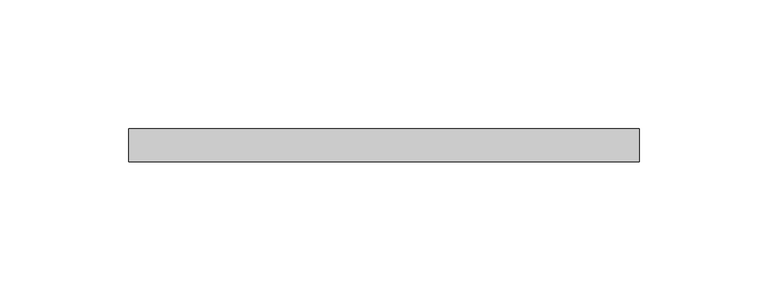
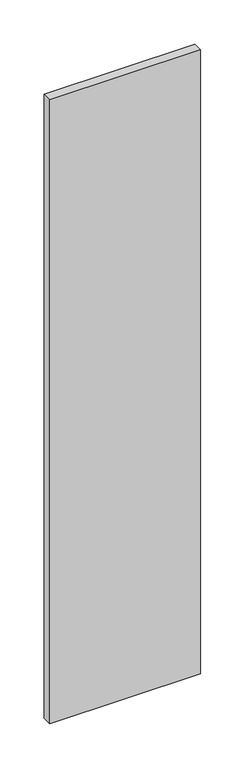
"""IFC4 building model written with IfcOpenShell, lengths in millimetres: proxy geometry, LIVERS_RZR - Glass Panel : LIVERS_RZR - Glass Panel."""

import ifcopenshell
import ifcopenshell.guid

model = None  # the IFC model being written
_history = None  # IfcOwnerHistory: only IFC2X3 demands one
_inside = {}  # id of a spatial element -> (the spatial element, [elements in it])
_under = {}  # id of a project, library or spatial element -> (it, [spatial elements below it])
_declared = {}  # id of a project -> (the project, [libraries it declares])
_typed = {}  # id of a type object -> (the type object, [elements of that type])
_made_of = {}  # id of a material, layer set ... -> (it, [elements and type objects made of it])


def new_model(schema):
    """Start an empty IFC model of exactly this schema.

    Asked for "IFC4X3", IfcOpenShell would pick the latest addendum, in which some entities
    have other attributes; the version numbers below select the first issue.
    IFC2X3 requires an IfcOwnerHistory on every rooted entity: one is made here for all.
    """
    global model, _history
    if schema == "IFC4X3":
        model = ifcopenshell.file(schema_version=(4, 3, 0, 0))
    else:
        model = ifcopenshell.file(schema=schema)
    _inside.clear()
    _under.clear()
    _declared.clear()
    _typed.clear()
    _made_of.clear()
    _history = None
    if model.schema == "IFC2X3":
        org = make("IfcOrganization", Name="unknown")
        user = make(
            "IfcPersonAndOrganization",
            ThePerson=make("IfcPerson", FamilyName="unknown"),
            TheOrganization=org,
        )
        app = make(
            "IfcApplication",
            ApplicationDeveloper=org,
            Version="unknown",
            ApplicationFullName="unknown",
            ApplicationIdentifier="unknown",
        )
        _history = make(
            "IfcOwnerHistory",
            OwningUser=user,
            OwningApplication=app,
            ChangeAction="ADDED",
            CreationDate=0,
        )
    return model


def make(cls, **values):
    """One entity of the class cls with the attributes given. An attribute that is None is left unset."""
    return model.create_entity(
        cls, **{name: value for name, value in values.items() if value is not None}
    )


def rooted(cls, **values):
    """An entity with a GlobalId (a new one), such as an element, a storey or a relation."""
    return make(cls, GlobalId=ifcopenshell.guid.new(), OwnerHistory=_history, **values)


def si_unit(unit_type, name, prefix=None):
    """IfcSIUnit, for example si_unit("LENGTHUNIT", "METRE", prefix="MILLI")."""
    return make("IfcSIUnit", UnitType=unit_type, Prefix=prefix, Name=name)


def assignment(units):
    """IfcUnitAssignment: the units of a project."""
    return None if units is None else make("IfcUnitAssignment", Units=units)


def point(xyz):
    """IfcCartesianPoint."""
    return None if xyz is None else make("IfcCartesianPoint", Coordinates=xyz)


def direction(xyz):
    """IfcDirection."""
    return None if xyz is None else make("IfcDirection", DirectionRatios=xyz)


def frame(location, z_axis=None, x_axis=None):
    """IfcAxis2Placement3D, a coordinate frame: its origin and axes. An axis left out is left unset."""
    return make(
        "IfcAxis2Placement3D",
        Location=point(location),
        Axis=direction(z_axis),
        RefDirection=direction(x_axis),
    )


def origin():
    """The frame at (0, 0, 0) with its axes left unset."""
    return frame((0.0, 0.0, 0.0))


def place(relative_to, where):
    """IfcLocalPlacement: puts the frame where relative to a parent placement (None: the world)."""
    return make(
        "IfcLocalPlacement", PlacementRelTo=relative_to, RelativePlacement=where
    )


def context(
    kind, dimensions, precision=None, world=None, true_north=None, identifier=None
):
    """IfcGeometricRepresentationContext, for example the 3D "Model" context."""
    return make(
        "IfcGeometricRepresentationContext",
        ContextIdentifier=identifier,
        ContextType=kind,
        CoordinateSpaceDimension=dimensions,
        Precision=precision,
        WorldCoordinateSystem=world,
        TrueNorth=true_north,
    )


def project(units=None, contexts=None):
    """IfcProject with its units and contexts."""
    return rooted(
        "IfcProject",
        Name="project",
        RepresentationContexts=contexts,
        UnitsInContext=assignment(units),
    )


def spatial(cls, under=None, at=None, **own):
    """A site, building, storey or space (cls), placed at a placement, below another one or the project."""
    s = rooted(cls, ObjectPlacement=at, **own)
    if under is not None:
        _under.setdefault(under.id(), (under, []))[1].append(s)
    return s


def polyline(points):
    """IfcPolyline through the points."""
    return make("IfcPolyline", Points=[point(p) for p in points])


def outline(outer, holes=None, kind="AREA"):
    """IfcArbitraryClosedProfileDef: a profile drawn as a closed curve; with holes, ...WithVoids."""
    if holes is None:
        return make("IfcArbitraryClosedProfileDef", ProfileType=kind, OuterCurve=outer)
    return make(
        "IfcArbitraryProfileDefWithVoids",
        ProfileType=kind,
        OuterCurve=outer,
        InnerCurves=holes,
    )


def extrude(swept, where, along, depth):
    """IfcExtrudedAreaSolid: the profile swept, set in the frame where, extruded along a direction by depth."""
    return make(
        "IfcExtrudedAreaSolid",
        SweptArea=swept,
        Position=where,
        ExtrudedDirection=direction(along),
        Depth=depth,
    )


def shape(context_of_items, identifier, shape_type, items):
    """IfcShapeRepresentation: the items that make up one representation, for example the "Body"."""
    return make(
        "IfcShapeRepresentation",
        ContextOfItems=context_of_items,
        RepresentationIdentifier=identifier,
        RepresentationType=shape_type,
        Items=items,
    )


def source(mapping_origin, context_of_items, identifier, shape_type, items):
    """IfcRepresentationMap: a shape defined once, which mapped items show again and again."""
    return make(
        "IfcRepresentationMap",
        MappingOrigin=mapping_origin,
        MappedRepresentation=shape(context_of_items, identifier, shape_type, items),
    )


def transform(
    local_origin,
    x_axis=None,
    y_axis=None,
    z_axis=None,
    scale=None,
    scale2=None,
    scale3=None,
    uniform=True,
):
    """IfcCartesianTransformationOperator3D, or its non-uniform kind. x_axis, y_axis, z_axis: its Axis1, 2, 3."""
    if uniform:
        return make(
            "IfcCartesianTransformationOperator3D",
            Axis1=direction(x_axis),
            Axis2=direction(y_axis),
            LocalOrigin=point(local_origin),
            Scale=scale,
            Axis3=direction(z_axis),
        )
    return make(
        "IfcCartesianTransformationOperator3DnonUniform",
        Axis1=direction(x_axis),
        Axis2=direction(y_axis),
        LocalOrigin=point(local_origin),
        Scale=scale,
        Axis3=direction(z_axis),
        Scale2=scale2,
        Scale3=scale3,
    )


def mapped(mapping_source, mapping_target):
    """IfcMappedItem: shows the shape of a source again, moved by a transform."""
    return make(
        "IfcMappedItem", MappingSource=mapping_source, MappingTarget=mapping_target
    )


def made_of(thing, what):
    """Note that an element or type object is made of a material, layer set ...; save() writes the relation."""
    if what is not None:
        _made_of.setdefault(what.id(), (what, []))[1].append(thing)
    return thing


def element(
    cls,
    number,
    at=None,
    inside=None,
    cuts=None,
    type_object=None,
    material=None,
    context=None,
    identifier="Body",
    shape_type=None,
    held_by="IfcProductDefinitionShape",
    body=None,
    shapes=None,
    **own,
):
    """One element of the class cls, such as IfcWall. Its Tag is "e" and its number.

    at: its placement. inside: the storey or other place that contains it. cuts: it is an
    opening in that element (IfcRelVoidsElement). A single representation is given by context,
    identifier, shape_type and body (its items); several are given by shapes. held_by: the class
    of the entity that holds the representations. save() writes the other relations.
    """
    e = rooted(cls, Tag="e%d" % number, ObjectPlacement=at, **own)
    if body is not None:
        shapes = [shape(context, identifier, shape_type, body)]
    if shapes is not None:
        e.Representation = make(held_by, Representations=shapes)
    if inside is not None:
        _inside.setdefault(inside.id(), (inside, []))[1].append(e)
    if cuts is not None:
        rooted(
            "IfcRelVoidsElement", RelatingBuildingElement=cuts, RelatedOpeningElement=e
        )
    if type_object is not None:
        _typed.setdefault(type_object.id(), (type_object, []))[1].append(e)
    return made_of(e, material)


def aggregate(whole, parts):
    """IfcRelAggregates: a whole, such as a stair, and the parts it consists of."""
    return rooted("IfcRelAggregates", RelatingObject=whole, RelatedObjects=parts)


def save(model, path):
    """Write the relations noted so far, then the file.

    IfcRelAggregates (storeys below a building ...), IfcRelContainedInSpatialStructure (elements
    in a storey), IfcRelDefinesByType, IfcRelAssociatesMaterial and IfcRelDeclares: one each for
    every whole, place, type object, material and project.
    """
    for whole, parts in _under.values():
        aggregate(whole, parts)
    for where, things in _inside.values():
        rooted(
            "IfcRelContainedInSpatialStructure",
            RelatedElements=things,
            RelatingStructure=where,
        )
    for kind, things in _typed.values():
        rooted("IfcRelDefinesByType", RelatedObjects=things, RelatingType=kind)
    for what, things in _made_of.values():
        rooted("IfcRelAssociatesMaterial", RelatedObjects=things, RelatingMaterial=what)
    for by, libraries in _declared.values():
        rooted("IfcRelDeclares", RelatingContext=by, RelatedDefinitions=libraries)
    model.write(path)


def building_element_proxy_6401780f(model_context):
    return source(origin(), model_context, "Body", "SweptSolid", [
        extrude(outline(polyline([(691.0051631, 1.5872342), (493.0512595, 1.5872342), (493.0512595, 14.2874305), (691.0051631, 14.2874305), (691.0051631, 1.5872342)])), frame((0.0, 0.0, 114.3), z_axis=(0.0, 0.0, 1.0), x_axis=(1.0, 0.0, 0.0)), (0.0, 0.0, 1.0), 863.6),
    ])


if __name__ == "__main__":
    model = new_model("IFC4")
    model_context = context("Model", 3, world=origin())
    ifc_project = project(units=[si_unit("LENGTHUNIT", "METRE", prefix="MILLI")], contexts=[model_context])
    site = spatial("IfcSite", under=ifc_project)
    building = spatial("IfcBuilding", under=site)
    placement = place(None, origin())
    building_element_proxy_shape = building_element_proxy_6401780f(model_context)
    element("IfcBuildingElementProxy", 1, Name="LIVERS_RZR - Glass Panel : LIVERS_RZR - Glass Panel", ObjectType="LIVERS_RZR - Glass Panel : LIVERS_RZR - Glass Panel", at=placement, inside=building, context=model_context, shape_type="MappedRepresentation", body=[
        mapped(building_element_proxy_shape, transform((0.0, 0.0, 0.0), x_axis=(1.0, 0.0, 0.0), y_axis=(0.0, 1.0, 0.0), z_axis=(0.0, 0.0, 1.0))),
    ])
    save(model, "model.ifc")
